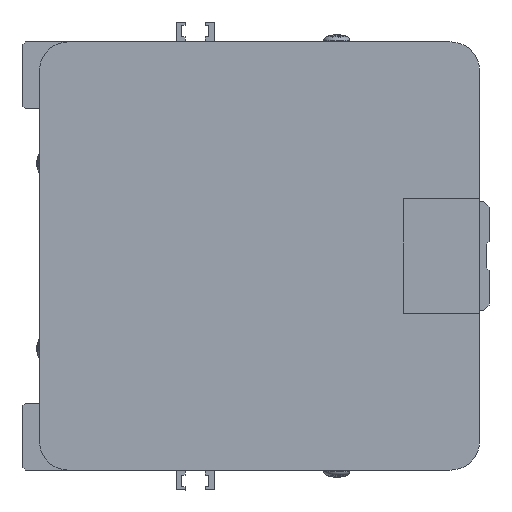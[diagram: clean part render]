
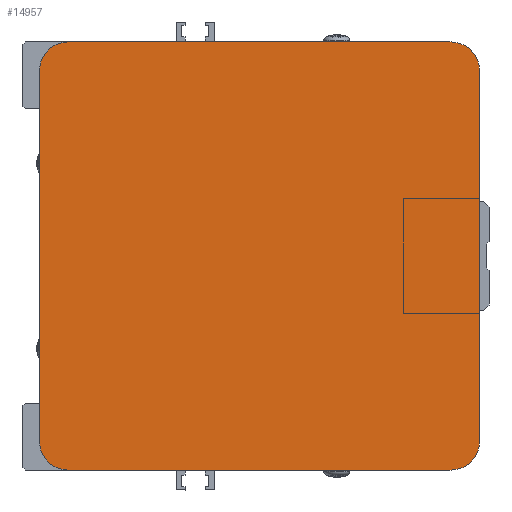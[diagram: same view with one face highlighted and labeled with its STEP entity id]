
A CAD part, left-side view. The second image highlights one B-rep face of the part: STEP entity #14957.
In plain terms, the highlighted planar face has unit normal (-1, 0, 0) as drawn and (0, 0, -1) by its records, which use the part's own axes.
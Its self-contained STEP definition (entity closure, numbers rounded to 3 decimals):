
#1165=CIRCLE('',#15937,6.);
#1167=CIRCLE('',#15942,6.);
#1168=CIRCLE('',#15948,6.);
#1169=CIRCLE('',#15950,6.);
#2062=FACE_OUTER_BOUND('',#2943,.T.);
#2943=EDGE_LOOP('',(#10445,#10446,#10447,#10448,#10449,#10450,#10451,#10452));
#4077=LINE('',#21406,#5322);
#4095=LINE('',#21445,#5340);
#4099=LINE('',#21457,#5344);
#4101=LINE('',#21464,#5346);
#5322=VECTOR('',#17493,78.);
#5340=VECTOR('',#17527,80.5);
#5344=VECTOR('',#17541,80.5);
#5346=VECTOR('',#17549,78.);
#6554=VERTEX_POINT('',#21400);
#6555=VERTEX_POINT('',#21404);
#6567=VERTEX_POINT('',#21442);
#6568=VERTEX_POINT('',#21444);
#6570=VERTEX_POINT('',#21453);
#6571=VERTEX_POINT('',#21455);
#6572=VERTEX_POINT('',#21459);
#6573=VERTEX_POINT('',#21463);
#8084=EDGE_CURVE('',#6555,#6554,#4077,.T.);
#8104=EDGE_CURVE('',#6567,#6568,#4095,.T.);
#8106=EDGE_CURVE('',#6568,#6555,#1165,.T.);
#8110=EDGE_CURVE('',#6571,#6570,#4099,.T.);
#8111=EDGE_CURVE('',#6570,#6572,#1167,.T.);
#8113=EDGE_CURVE('',#6572,#6573,#4101,.T.);
#8129=EDGE_CURVE('',#6573,#6567,#1168,.T.);
#8130=EDGE_CURVE('',#6554,#6571,#1169,.T.);
#10445=ORIENTED_EDGE('',*,*,#8111,.F.);
#10446=ORIENTED_EDGE('',*,*,#8110,.F.);
#10447=ORIENTED_EDGE('',*,*,#8130,.F.);
#10448=ORIENTED_EDGE('',*,*,#8084,.F.);
#10449=ORIENTED_EDGE('',*,*,#8106,.F.);
#10450=ORIENTED_EDGE('',*,*,#8104,.F.);
#10451=ORIENTED_EDGE('',*,*,#8129,.F.);
#10452=ORIENTED_EDGE('',*,*,#8113,.F.);
#14440=PLANE('',#15961);
#14957=ADVANCED_FACE('',(#2062),#14440,.T.);
#15937=AXIS2_PLACEMENT_3D('',#21448,#17531,#17532);
#15942=AXIS2_PLACEMENT_3D('',#21460,#17544,#17545);
#15948=AXIS2_PLACEMENT_3D('',#21492,#17573,#17574);
#15950=AXIS2_PLACEMENT_3D('',#21494,#17577,#17578);
#15961=AXIS2_PLACEMENT_3D('',#21513,#17604,#17605);
#17493=DIRECTION('',(1.,0.,0.));
#17527=DIRECTION('',(0.,-1.,0.));
#17531=DIRECTION('center_axis',(0.,0.,
1.));
#17532=DIRECTION('ref_axis',(-1.,0.,0.));
#17541=DIRECTION('',(0.,1.,0.));
#17544=DIRECTION('center_axis',(0.,0.,
1.));
#17545=DIRECTION('ref_axis',(1.,0.,0.));
#17549=DIRECTION('',(-1.,0.,0.));
#17573=DIRECTION('center_axis',(0.,0.,
1.));
#17574=DIRECTION('ref_axis',(0.,1.,0.));
#17577=DIRECTION('center_axis',(0.,0.,
1.));
#17578=DIRECTION('ref_axis',(0.,-1.,0.));
#17604=DIRECTION('center_axis',(0.,0.,
-1.));
#17605=DIRECTION('ref_axis',(0.545,-0.839,0.));
#21400=CARTESIAN_POINT('',(88.204,2.,-386.));
#21404=CARTESIAN_POINT('',(10.204,2.,-386.));
#21406=CARTESIAN_POINT('',(10.204,2.,-386.));
#21442=CARTESIAN_POINT('',(4.204,88.5,-386.));
#21444=CARTESIAN_POINT('',(4.204,8.,-386.));
#21445=CARTESIAN_POINT('',(4.204,88.5,-386.));
#21448=CARTESIAN_POINT('Origin',(10.204,8.,-386.));
#21453=CARTESIAN_POINT('',(94.204,88.5,-386.));
#21455=CARTESIAN_POINT('',(94.204,8.,-386.));
#21457=CARTESIAN_POINT('',(94.204,8.,-386.));
#21459=CARTESIAN_POINT('',(88.204,94.5,-386.));
#21460=CARTESIAN_POINT('Origin',(88.204,88.5,-386.));
#21463=CARTESIAN_POINT('',(10.204,94.5,-386.));
#21464=CARTESIAN_POINT('',(88.204,94.5,-386.));
#21492=CARTESIAN_POINT('Origin',(10.204,88.5,-386.));
#21494=CARTESIAN_POINT('Origin',(88.204,8.,-386.));
#21513=CARTESIAN_POINT('Origin',(49.204,26.,-386.));
